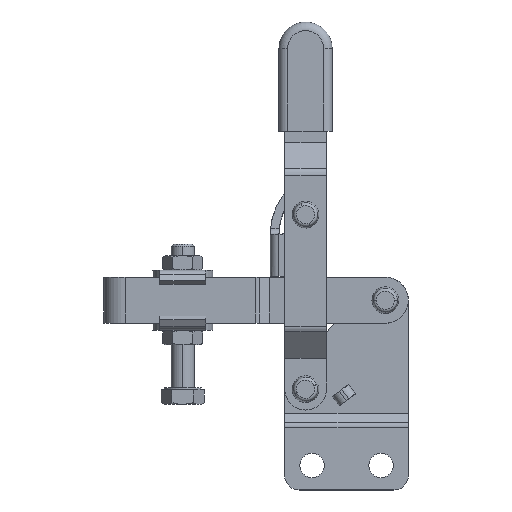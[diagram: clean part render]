
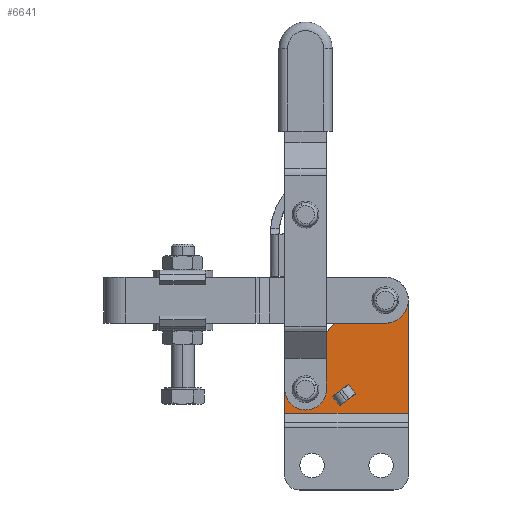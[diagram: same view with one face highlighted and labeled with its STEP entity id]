
A CAD part, top view. The second image highlights one B-rep face of the part: STEP entity #6641.
In plain terms, the highlighted planar face has unit normal (0, 0, 1).
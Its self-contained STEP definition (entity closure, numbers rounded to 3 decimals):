
#24 = VECTOR ( 'NONE', #1211, 1000. ) ;
#57 = AXIS2_PLACEMENT_3D ( 'NONE', #7470, #3459, #9031 ) ;
#72 = CARTESIAN_POINT ( 'NONE',  ( 0., 39.25, 0. ) ) ;
#76 = EDGE_CURVE ( 'NONE', #10235, #10694, #7765, .T. ) ;
#153 = LINE ( 'NONE', #1720, #3865 ) ;
#165 = VERTEX_POINT ( 'NONE', #5139 ) ;
#217 = CARTESIAN_POINT ( 'NONE',  ( -43., 0., 0. ) ) ;
#375 = ORIENTED_EDGE ( 'NONE', *, *, #3438, .F. ) ;
#650 = DIRECTION ( 'NONE',  ( 0., -1., 0. ) ) ;
#679 = FACE_BOUND ( 'NONE', #1946, .T. ) ;
#826 = DIRECTION ( 'NONE',  ( 0., 0., -1. ) ) ;
#885 = AXIS2_PLACEMENT_3D ( 'NONE', #9301, #7319, #2432 ) ;
#906 = AXIS2_PLACEMENT_3D ( 'NONE', #9353, #1067, #6929 ) ;
#1067 = DIRECTION ( 'NONE',  ( 0., 0., 1. ) ) ;
#1211 = DIRECTION ( 'NONE',  ( 0.799, 0.602, 0. ) ) ;
#1263 = ORIENTED_EDGE ( 'NONE', *, *, #5886, .T. ) ;
#1283 = ORIENTED_EDGE ( 'NONE', *, *, #6186, .T. ) ;
#1375 = EDGE_CURVE ( 'NONE', #10784, #4356, #9771, .T. ) ;
#1410 = VERTEX_POINT ( 'NONE', #7374 ) ;
#1659 = VERTEX_POINT ( 'NONE', #2242 ) ;
#1673 = CIRCLE ( 'NONE', #7791, 2.55 ) ;
#1720 = CARTESIAN_POINT ( 'NONE',  ( -26.407, 5.695, 0. ) ) ;
#1884 = CARTESIAN_POINT ( 'NONE',  ( -24., 2.5, 0. ) ) ;
#1891 = LINE ( 'NONE', #217, #5282 ) ;
#1944 = CIRCLE ( 'NONE', #7359, 8. ) ;
#1946 = EDGE_LOOP ( 'NONE', ( #7918, #3927 ) ) ;
#1962 = EDGE_CURVE ( 'NONE', #5150, #3452, #7563, .T. ) ;
#1996 = CARTESIAN_POINT ( 'NONE',  ( -8., 39.25, 0. ) ) ;
#2089 = ORIENTED_EDGE ( 'NONE', *, *, #1962, .F. ) ;
#2146 = CIRCLE ( 'NONE', #57, 2.55 ) ;
#2234 = VERTEX_POINT ( 'NONE', #2897 ) ;
#2242 = CARTESIAN_POINT ( 'NONE',  ( -43., 0., 0. ) ) ;
#2245 = DIRECTION ( 'NONE',  ( 1., 0., 0. ) ) ;
#2432 = DIRECTION ( 'NONE',  ( 1., 0., 0. ) ) ;
#2440 = EDGE_CURVE ( 'NONE', #7274, #165, #1944, .T. ) ;
#2446 = CARTESIAN_POINT ( 'NONE',  ( -33.2, 8.3, 0. ) ) ;
#2612 = FACE_BOUND ( 'NONE', #5387, .T. ) ;
#2883 = EDGE_CURVE ( 'NONE', #6182, #8862, #6856, .T. ) ;
#2897 = CARTESIAN_POINT ( 'NONE',  ( -18.41, 6.713, 0. ) ) ;
#3342 = ORIENTED_EDGE ( 'NONE', *, *, #10507, .F. ) ;
#3438 = EDGE_CURVE ( 'NONE', #10694, #9145, #9194, .T. ) ;
#3452 = VERTEX_POINT ( 'NONE', #1884 ) ;
#3459 = DIRECTION ( 'NONE',  ( 0., 0., 1. ) ) ;
#3752 = EDGE_CURVE ( 'NONE', #2234, #1410, #10586, .T. ) ;
#3796 = ORIENTED_EDGE ( 'NONE', *, *, #76, .F. ) ;
#3863 = LINE ( 'NONE', #8941, #3889 ) ;
#3865 = VECTOR ( 'NONE', #6600, 1000. ) ;
#3871 = ORIENTED_EDGE ( 'NONE', *, *, #3752, .F. ) ;
#3889 = VECTOR ( 'NONE', #10705, 1000. ) ;
#3927 = ORIENTED_EDGE ( 'NONE', *, *, #1375, .F. ) ;
#3951 = EDGE_CURVE ( 'NONE', #3452, #2234, #7884, .T. ) ;
#4006 = ORIENTED_EDGE ( 'NONE', *, *, #7454, .F. ) ;
#4062 = CARTESIAN_POINT ( 'NONE',  ( -26.407, 5.695, 0. ) ) ;
#4171 = DIRECTION ( 'NONE',  ( 0.665, 0.747, 0. ) ) ;
#4356 = VERTEX_POINT ( 'NONE', #2446 ) ;
#4672 = EDGE_CURVE ( 'NONE', #165, #10235, #7276, .T. ) ;
#4798 = CARTESIAN_POINT ( 'NONE',  ( 0., 47.25, 0. ) ) ;
#4856 = DIRECTION ( 'NONE',  ( -0.602, 0.799, 0. ) ) ;
#4887 = CARTESIAN_POINT ( 'NONE',  ( 0., 0., 0. ) ) ;
#5139 = CARTESIAN_POINT ( 'NONE',  ( -40.978, 14.209, 0. ) ) ;
#5150 = VERTEX_POINT ( 'NONE', #4062 ) ;
#5242 = VECTOR ( 'NONE', #4856, 1000. ) ;
#5254 = CARTESIAN_POINT ( 'NONE',  ( -43., 47.25, 0. ) ) ;
#5276 = CARTESIAN_POINT ( 'NONE',  ( -5.45, 39.25, 0. ) ) ;
#5282 = VECTOR ( 'NONE', #5444, 1000. ) ;
#5387 = EDGE_LOOP ( 'NONE', ( #10373, #2089, #4006, #3871 ) ) ;
#5409 = ORIENTED_EDGE ( 'NONE', *, *, #2440, .F. ) ;
#5444 = DIRECTION ( 'NONE',  ( 1., 0., 0. ) ) ;
#5458 = CARTESIAN_POINT ( 'NONE',  ( -29.935, 26.625, 0. ) ) ;
#5613 = CARTESIAN_POINT ( 'NONE',  ( -20.817, 9.907, 0. ) ) ;
#5886 = EDGE_CURVE ( 'NONE', #7274, #1659, #3863, .T. ) ;
#6149 = VECTOR ( 'NONE', #4171, 1000. ) ;
#6182 = VERTEX_POINT ( 'NONE', #10423 ) ;
#6186 = EDGE_CURVE ( 'NONE', #1659, #9145, #1891, .T. ) ;
#6229 = CARTESIAN_POINT ( 'NONE',  ( -43., 8.893, 0. ) ) ;
#6350 = AXIS2_PLACEMENT_3D ( 'NONE', #5254, #10008, #6684 ) ;
#6434 = EDGE_CURVE ( 'NONE', #4356, #10784, #2146, .T. ) ;
#6524 = DIRECTION ( 'NONE',  ( 0., 0., 1. ) ) ;
#6600 = DIRECTION ( 'NONE',  ( -0.799, -0.602, 0. ) ) ;
#6641 = ADVANCED_FACE ( 'NONE', ( #679, #7341, #10665, #2612 ), #7614, .T. ) ;
#6649 = CARTESIAN_POINT ( 'NONE',  ( -13.978, 44.567, 0. ) ) ;
#6674 = DIRECTION ( 'NONE',  ( 0., 0., -1. ) ) ;
#6684 = DIRECTION ( 'NONE',  ( 0., -1., 0. ) ) ;
#6697 = CARTESIAN_POINT ( 'NONE',  ( -26.407, 5.695, 0. ) ) ;
#6765 = ORIENTED_EDGE ( 'NONE', *, *, #4672, .F. ) ;
#6856 = CIRCLE ( 'NONE', #906, 2.55 ) ;
#6887 = EDGE_LOOP ( 'NONE', ( #375, #3796, #6765, #5409, #1263, #1283 ) ) ;
#6929 = DIRECTION ( 'NONE',  ( 1., 0., 0. ) ) ;
#7274 = VERTEX_POINT ( 'NONE', #6229 ) ;
#7276 = LINE ( 'NONE', #5458, #6149 ) ;
#7319 = DIRECTION ( 'NONE',  ( 0., 0., 1. ) ) ;
#7341 = FACE_BOUND ( 'NONE', #9874, .T. ) ;
#7359 = AXIS2_PLACEMENT_3D ( 'NONE', #7606, #6674, #10053 ) ;
#7374 = CARTESIAN_POINT ( 'NONE',  ( -20.817, 9.907, 0. ) ) ;
#7454 = EDGE_CURVE ( 'NONE', #1410, #5150, #153, .T. ) ;
#7470 = CARTESIAN_POINT ( 'NONE',  ( -35.75, 8.3, 0. ) ) ;
#7524 = ORIENTED_EDGE ( 'NONE', *, *, #2883, .F. ) ;
#7563 = LINE ( 'NONE', #6697, #8736 ) ;
#7606 = CARTESIAN_POINT ( 'NONE',  ( -35., 8.893, 0. ) ) ;
#7614 = PLANE ( 'NONE',  #6350 ) ;
#7765 = CIRCLE ( 'NONE', #8637, 8. ) ;
#7791 = AXIS2_PLACEMENT_3D ( 'NONE', #1996, #6524, #2245 ) ;
#7884 = LINE ( 'NONE', #8701, #24 ) ;
#7918 = ORIENTED_EDGE ( 'NONE', *, *, #6434, .F. ) ;
#8303 = CARTESIAN_POINT ( 'NONE',  ( -8., 39.25, 0. ) ) ;
#8637 = AXIS2_PLACEMENT_3D ( 'NONE', #8303, #826, #9997 ) ;
#8701 = CARTESIAN_POINT ( 'NONE',  ( -24., 2.5, 0. ) ) ;
#8736 = VECTOR ( 'NONE', #10731, 1000. ) ;
#8862 = VERTEX_POINT ( 'NONE', #5276 ) ;
#8941 = CARTESIAN_POINT ( 'NONE',  ( -43., 47.25, 0. ) ) ;
#9031 = DIRECTION ( 'NONE',  ( 1., 0., 0. ) ) ;
#9145 = VERTEX_POINT ( 'NONE', #4887 ) ;
#9194 = LINE ( 'NONE', #4798, #10642 ) ;
#9301 = CARTESIAN_POINT ( 'NONE',  ( -35.75, 8.3, 0. ) ) ;
#9331 = CARTESIAN_POINT ( 'NONE',  ( -38.3, 8.3, 0. ) ) ;
#9353 = CARTESIAN_POINT ( 'NONE',  ( -8., 39.25, 0. ) ) ;
#9771 = CIRCLE ( 'NONE', #885, 2.55 ) ;
#9874 = EDGE_LOOP ( 'NONE', ( #3342, #7524 ) ) ;
#9997 = DIRECTION ( 'NONE',  ( 1., 0., 0. ) ) ;
#10008 = DIRECTION ( 'NONE',  ( 0., 0., 1. ) ) ;
#10053 = DIRECTION ( 'NONE',  ( 1., 0., 0. ) ) ;
#10235 = VERTEX_POINT ( 'NONE', #6649 ) ;
#10373 = ORIENTED_EDGE ( 'NONE', *, *, #3951, .F. ) ;
#10423 = CARTESIAN_POINT ( 'NONE',  ( -10.55, 39.25, 0. ) ) ;
#10507 = EDGE_CURVE ( 'NONE', #8862, #6182, #1673, .T. ) ;
#10586 = LINE ( 'NONE', #5613, #5242 ) ;
#10642 = VECTOR ( 'NONE', #650, 1000. ) ;
#10665 = FACE_OUTER_BOUND ( 'NONE', #6887, .T. ) ;
#10694 = VERTEX_POINT ( 'NONE', #72 ) ;
#10705 = DIRECTION ( 'NONE',  ( 0., -1., 0. ) ) ;
#10731 = DIRECTION ( 'NONE',  ( 0.602, -0.799, 0. ) ) ;
#10784 = VERTEX_POINT ( 'NONE', #9331 ) ;
